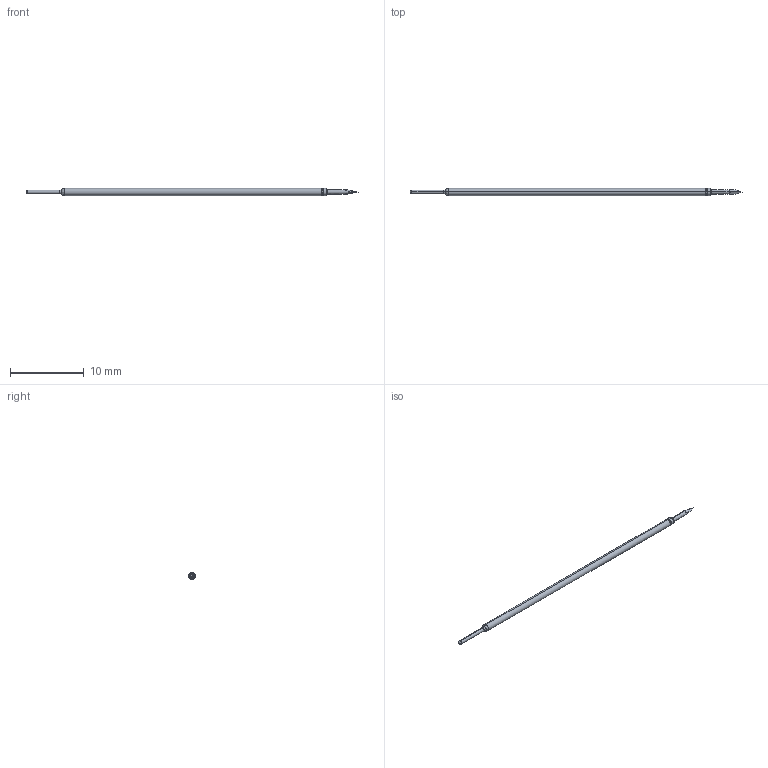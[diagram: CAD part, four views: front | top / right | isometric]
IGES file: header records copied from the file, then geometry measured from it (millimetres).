
Start section: SolidWorks IGES file using analytic representation for surfaces
Global section: file name: C:\Documents and Settings\mrumschlag\Desktop\changes\new\test\I35 RECD.IGS; native system: SolidWorks 2011; preprocessor: SolidWorks 2011; author: mrumschlag; date: 110630.142319; units: inch
Bounding box: 45.03 x 0.97 x 0.97 mm (x, y, z)
Surface area: 123.8 mm2 (no closed solid volume)
Topology: 0 solids, 0 shells, 27 faces, 166 edges, 164 vertices
Faces by surface type: revolution 14, bspline 13
